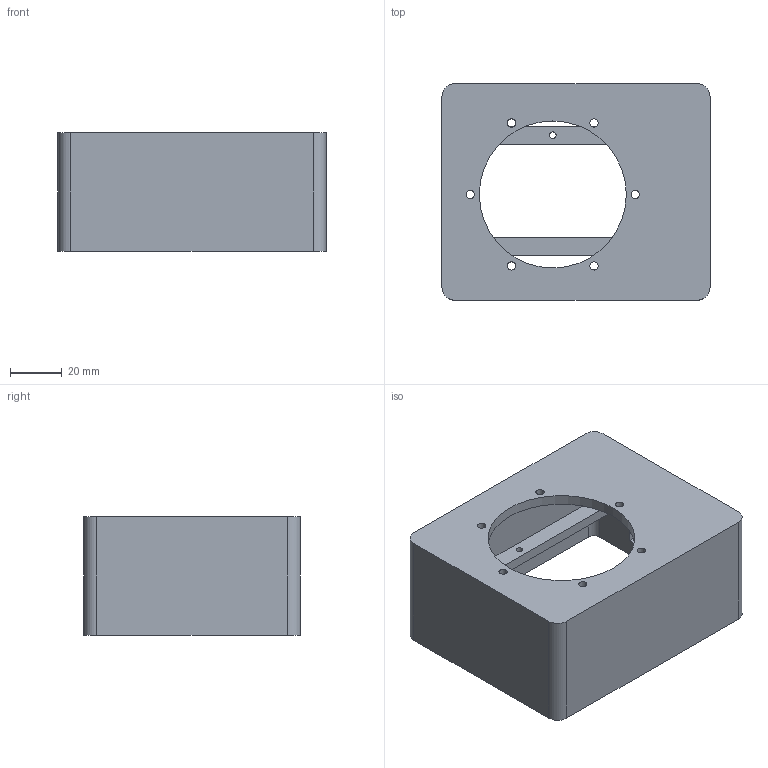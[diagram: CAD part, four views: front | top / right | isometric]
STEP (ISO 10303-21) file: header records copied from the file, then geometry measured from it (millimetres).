
FILE_DESCRIPTION(('Open CASCADE Model'),'2;1');
FILE_NAME('Open CASCADE Shape Model','2026-11-05T01:23:30',('Author'),( 'Open CASCADE'),'Open CASCADE STEP processor 7.8','Open CASCADE 7.8' ,'Unknown');
FILE_SCHEMA(('AUTOMOTIVE_DESIGN { 1 0 10303 214 1 1 1 1 }'));
Length unit declared in the file: millimetre
Products named in the file (1): Open CASCADE STEP translator 7.8 4
Bounding box: 104 x 84 x 46 mm (x, y, z)
Volume: 85473.5 mm3; surface area: 46949.6 mm2
Topology: 1 solids, 1 shells, 41 faces, 120 edges, 80 vertices
Faces by surface type: plane 23, cylinder 18
Full cylindrical faces by diameter (mm): 2.6 x3, 3.2 x6, 57 x1
Entity records: 3022 total; most frequent: CARTESIAN_POINT 542, DIRECTION 470, LINE 288, VECTOR 288, ORIENTED_EDGE 240, PCURVE 240, DEFINITIONAL_REPRESENTATION 240, EDGE_CURVE 120
